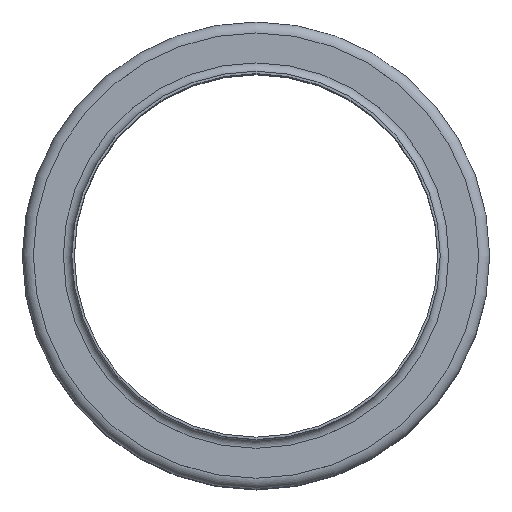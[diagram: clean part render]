
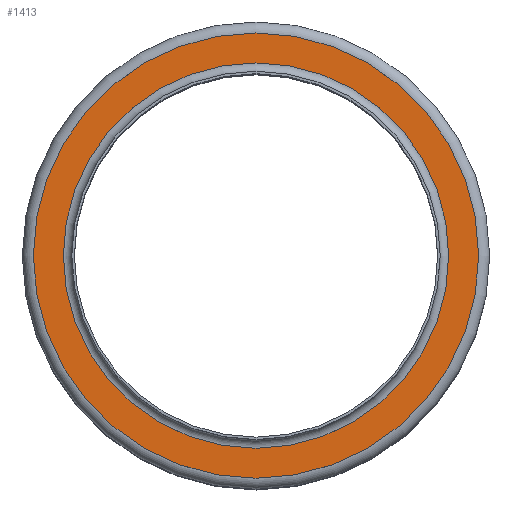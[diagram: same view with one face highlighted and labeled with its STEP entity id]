
A CAD part, top view. The second image highlights one B-rep face of the part: STEP entity #1413.
In plain terms, the highlighted planar face has unit normal (0, 0, 1).
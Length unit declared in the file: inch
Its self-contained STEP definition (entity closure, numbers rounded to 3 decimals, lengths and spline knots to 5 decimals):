
#127=FACE_BOUND('',#381,.T.);
#226=FACE_OUTER_BOUND('',#380,.T.);
#380=EDGE_LOOP('',(#1105));
#381=EDGE_LOOP('',(#1106));
#542=CIRCLE('',#1682,1.85575);
#543=CIRCLE('',#1684,2.14425);
#655=VERTEX_POINT('',#2578);
#656=VERTEX_POINT('',#2582);
#808=EDGE_CURVE('',#655,#655,#542,.T.);
#809=EDGE_CURVE('',#656,#656,#543,.T.);
#1105=ORIENTED_EDGE('',*,*,#809,.F.);
#1106=ORIENTED_EDGE('',*,*,#808,.T.);
#1203=PLANE('',#1683);
#1413=ADVANCED_FACE('',(#226,#127),#1203,.T.);
#1682=AXIS2_PLACEMENT_3D('',#2580,#2178,#2179);
#1683=AXIS2_PLACEMENT_3D('',#2581,#2180,#2181);
#1684=AXIS2_PLACEMENT_3D('',#2583,#2182,#2183);
#2178=DIRECTION('center_axis',(0.,0.,-1.));
#2179=DIRECTION('ref_axis',(1.,0.,0.));
#2180=DIRECTION('center_axis',(0.,0.,1.));
#2181=DIRECTION('ref_axis',(1.,0.,0.));
#2182=DIRECTION('center_axis',(0.,0.,-1.));
#2183=DIRECTION('ref_axis',(1.,0.,0.));
#2578=CARTESIAN_POINT('',(1.85575,0.,-0.08175));
#2580=CARTESIAN_POINT('Origin',(0.,0.,-0.08175));
#2581=CARTESIAN_POINT('Origin',(0.,2.14425,-0.08175));
#2582=CARTESIAN_POINT('',(2.14425,0.,-0.08175));
#2583=CARTESIAN_POINT('Origin',(0.,0.,-0.08175));
